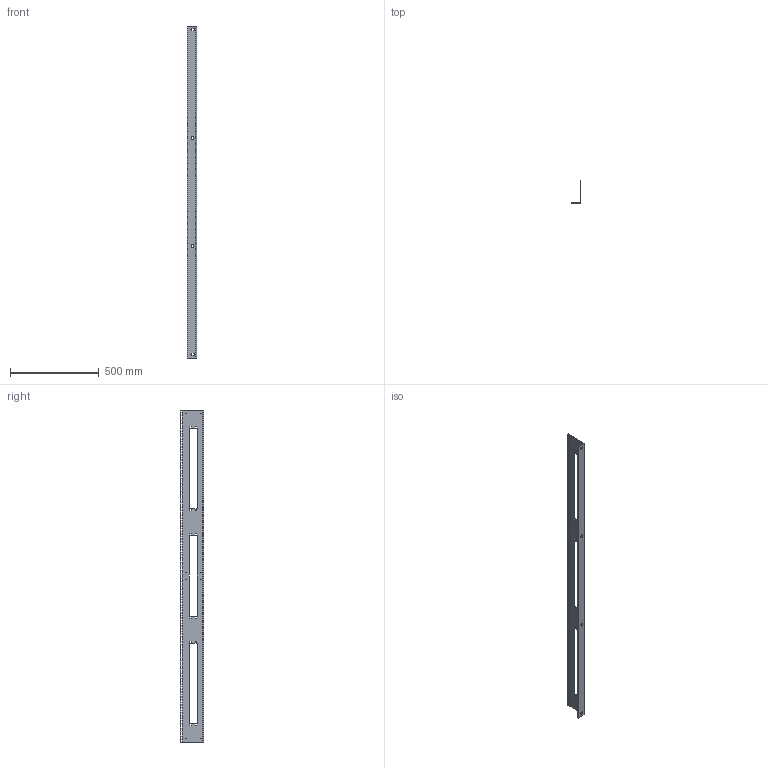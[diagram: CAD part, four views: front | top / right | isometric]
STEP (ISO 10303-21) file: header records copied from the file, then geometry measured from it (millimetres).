
FILE_DESCRIPTION(/* description */ ('Unknown'),/* implementation_level */ '2;1');
FILE_NAME(/* name */ 'H1SRR42U31BK',/* time_stamp */ '2021-03-18T08:11:02-04:00',/* author */ ('Unknown'),/* organization */ ('Unknown'),/* preprocessor_version */ 'ST-DEVELOPER v16.7',/* originating_system */ 'Solid Edge',/* authorisation */ 'Unknown');
FILE_SCHEMA (('AUTOMOTIVE_DESIGN {1 0 10303 214 3 1 1}'));
Length unit declared in the file: millimetre
Products named in the file (1): COM57244-31LW
Bounding box: 50.8 x 130.66 x 1867.66 mm (x, y, z)
Volume: 624202.9 mm3; surface area: 548292.4 mm2
Topology: 1 solids, 1 shells, 721 faces, 2120 edges, 1416 vertices
Faces by surface type: plane 672, cylinder 38, bspline 11
Full cylindrical faces by diameter (mm): 4.496 x8
Entity records: 24478 total; most frequent: CARTESIAN_POINT 4853, ORIENTED_EDGE 4208, DIRECTION 3506, EDGE_CURVE 2104, LINE 1932, VECTOR 1932, VERTEX_POINT 1408, EDGE_LOOP 1050
